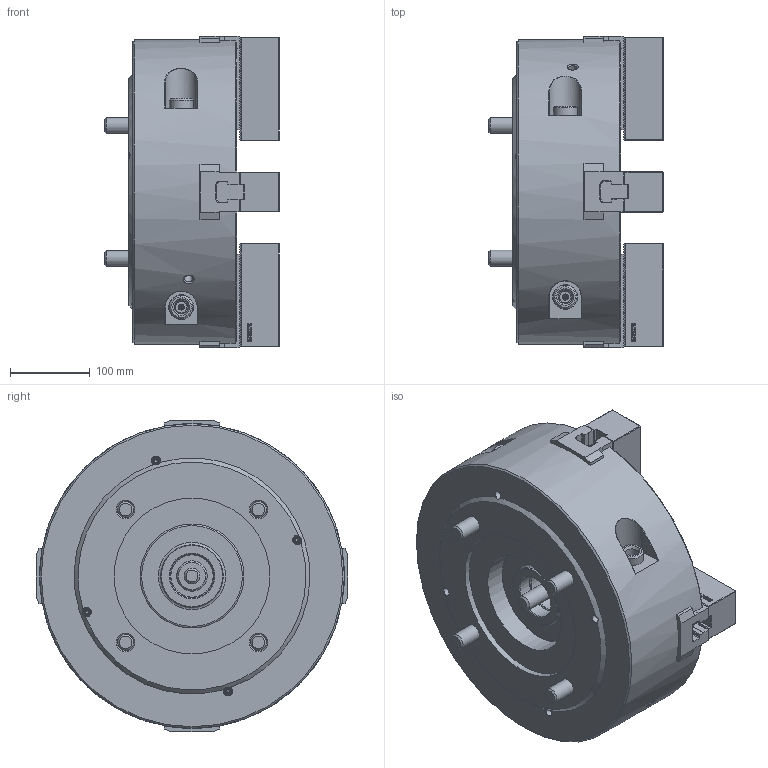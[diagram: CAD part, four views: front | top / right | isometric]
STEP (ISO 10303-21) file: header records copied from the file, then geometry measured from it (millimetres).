
FILE_DESCRIPTION (( 'STEP AP214' ), '1' );
FILE_NAME ('DT1_HW-15_OUTSIDE_VIEW_UC.STEP', '2024-05-10T01:32:39', ( '' ), ( '' ), 'SwSTEP 2.0', 'SolidWorks 2022', '' );
FILE_SCHEMA (( 'AUTOMOTIVE_DESIGN' ));
Length unit declared in the file: millimetre
Products named in the file (10): DT1_HW-15_DRAWSCREW^DT1_HW-15_ﾃﾞﾌｫﾙﾄ; DT1_HW-15_M20x140^DT1_HW-15_ﾃﾞﾌｫﾙﾄ; DT1_HW-15_DN^DT1_HW-15_ﾃﾞﾌｫﾙﾄ; DT1_HW-15_M5x10^DT1_HW-15_ﾃﾞﾌｫﾙﾄ; DT1_HW-15_SOFTJAW^DT1_HW-15_ﾃﾞﾌｫﾙﾄ; DT1_HW-15_OUTSIDE_VIEW_UC; DT1_HW-15_TNUT^DT1_HW-15_ﾃﾞﾌｫﾙﾄ; DT1_HW-15_BASE^DT1_HW-15_ﾃﾞﾌｫﾙﾄ; DT1_HW-15_M14x40^DT1_HW-15_ﾃﾞﾌｫﾙﾄ; DT1_HW-15_COVER^DT1_HW-15_ﾃﾞﾌｫﾙﾄ
Assembly tree (28 placements, depth 2):
  DT1_HW-15_OUTSIDE_VIEW_UC
    DT1_HW-15_SOFTJAW^DT1_HW-15_ﾃﾞﾌｫﾙﾄ  x4
    DT1_HW-15_TNUT^DT1_HW-15_ﾃﾞﾌｫﾙﾄ  x4
    DT1_HW-15_COVER^DT1_HW-15_ﾃﾞﾌｫﾙﾄ
    DT1_HW-15_DRAWSCREW^DT1_HW-15_ﾃﾞﾌｫﾙﾄ
    DT1_HW-15_DN^DT1_HW-15_ﾃﾞﾌｫﾙﾄ
    DT1_HW-15_BASE^DT1_HW-15_ﾃﾞﾌｫﾙﾄ
    DT1_HW-15_M20x140^DT1_HW-15_ﾃﾞﾌｫﾙﾄ  x4
    DT1_HW-15_M14x40^DT1_HW-15_ﾃﾞﾌｫﾙﾄ  x8
    DT1_HW-15_M5x10^DT1_HW-15_ﾃﾞﾌｫﾙﾄ  x4
Bounding box: 218 x 389.78 x 389.78 mm (x, y, z)
Volume: 15468230.1 mm3; surface area: 907176.3 mm2
Topology: 28 solids, 36 shells, 5390 faces, 15276 edges, 10104 vertices
Faces by surface type: plane 3812, cylinder 898, bspline 379, cone 266, torus 31, sphere 4
Full cylindrical faces by diameter (mm): 2 x4, 4.2 x4, 5 x4, 5.5 x4, 6.8 x5, 8.72 x4, 9.5 x4, 10.2 x6, 12 x8, 13.27 x4, 14 x12, 15 x8, 17 x5, 17.5 x1, 20 x6, 21 x4, 21.33 x8, 22 x8, 27 x1, 29.6 x4, 30.33 x4, 31 x5, 32 x4, 38 x1, 52.835 x1, 55 x1, 56 x2, 78 x1, 130 x1, 195 x1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
Entity records: 125186 total; most frequent: CARTESIAN_POINT 34502, ORIENTED_EDGE 19934, DIRECTION 16597, EDGE_CURVE 9967, LINE 7793, VECTOR 7793, VERTEX_POINT 6698, AXIS2_PLACEMENT_3D 4402
